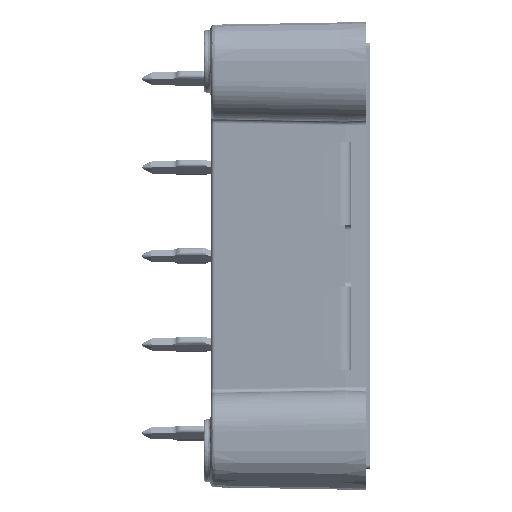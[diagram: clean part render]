
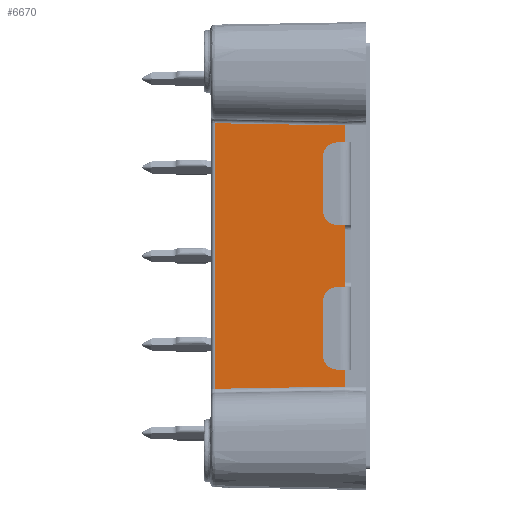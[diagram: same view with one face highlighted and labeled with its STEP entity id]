
A CAD part, left-side view. The second image highlights one B-rep face of the part: STEP entity #6670.
In plain terms, the highlighted planar face has unit normal (-1, 0.018, 0).
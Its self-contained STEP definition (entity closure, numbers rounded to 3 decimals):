
#2702 = CARTESIAN_POINT ( 'NONE',  ( 33.422, 4.162, 1.228 ) ) ;
#6057 = CARTESIAN_POINT ( 'NONE',  ( 33.257, -5.274, 2.319 ) ) ;
#6670 = ADVANCED_FACE ( 'NONE', ( #112217 ), #12534, .T. ) ;
#7149 = VECTOR ( 'NONE', #142956, 1000. ) ;
#8258 = CARTESIAN_POINT ( 'NONE',  ( 33.257, -5.274, 20.353 ) ) ;
#9477 = CARTESIAN_POINT ( 'NONE',  ( 33.257, -5.274, 2.728 ) ) ;
#12534 = PLANE ( 'NONE',  #113910 ) ;
#15076 = B_SPLINE_CURVE_WITH_KNOTS ( 'NONE', 3,
 ( #32436, #23650, #25060, #113857 ),
 .UNSPECIFIED., .F., .F.,
 ( 4, 4 ),
 ( 0., 1. ),
 .UNSPECIFIED. ) ;
#22561 = EDGE_CURVE ( 'NONE', #54122, #101447, #119812, .T. ) ;
#23650 = CARTESIAN_POINT ( 'NONE',  ( 33.257, -5.274, 19.536 ) ) ;
#23984 = VECTOR ( 'NONE', #137281, 1000. ) ;
#25060 = CARTESIAN_POINT ( 'NONE',  ( 33.257, -5.274, 19.945 ) ) ;
#25075 = CARTESIAN_POINT ( 'NONE',  ( 33.231, -6.799, 1.528 ) ) ;
#25650 = EDGE_LOOP ( 'NONE', ( #61124, #32652, #135223, #116649, #41883, #121163 ) ) ;
#32436 = CARTESIAN_POINT ( 'NONE',  ( 33.257, -5.274, 19.128 ) ) ;
#32652 = ORIENTED_EDGE ( 'NONE', *, *, #133468, .T. ) ;
#35061 = DIRECTION ( 'NONE',  ( -1., 0.017, 0. ) ) ;
#35231 = CARTESIAN_POINT ( 'NONE',  ( 33.422, 4.162, 1.337 ) ) ;
#35349 = EDGE_CURVE ( 'NONE', #111263, #45601, #57999, .T. ) ;
#39281 = CARTESIAN_POINT ( 'NONE',  ( 33.422, 4.162, 20.518 ) ) ;
#41699 = EDGE_CURVE ( 'NONE', #111263, #54122, #138372, .T. ) ;
#41883 = ORIENTED_EDGE ( 'NONE', *, *, #35349, .F. ) ;
#45601 = VERTEX_POINT ( 'NONE', #39281 ) ;
#45689 = VECTOR ( 'NONE', #96712, 1000. ) ;
#49623 = DIRECTION ( 'NONE',  ( -0.017, -1., 0.017 ) ) ;
#50438 = CARTESIAN_POINT ( 'NONE',  ( 33.257, -5.274, 1.502 ) ) ;
#53523 = LINE ( 'NONE', #132767, #7149 ) ;
#54122 = VERTEX_POINT ( 'NONE', #82393 ) ;
#56907 = DIRECTION ( 'NONE',  ( -0.017, -1., 0. ) ) ;
#57999 = LINE ( 'NONE', #2702, #23984 ) ;
#61124 = ORIENTED_EDGE ( 'NONE', *, *, #22561, .T. ) ;
#73042 = CARTESIAN_POINT ( 'NONE',  ( 33.257, -5.274, 2.728 ) ) ;
#74918 = CARTESIAN_POINT ( 'NONE',  ( 33.257, -5.274, 1.228 ) ) ;
#82393 = CARTESIAN_POINT ( 'NONE',  ( 33.257, -5.274, 1.502 ) ) ;
#91391 = VERTEX_POINT ( 'NONE', #8258 ) ;
#94088 = CARTESIAN_POINT ( 'NONE',  ( 33.257, -5.274, 1.91 ) ) ;
#95277 = LINE ( 'NONE', #74918, #45689 ) ;
#96712 = DIRECTION ( 'NONE',  ( 0., 0., 1. ) ) ;
#97421 = VERTEX_POINT ( 'NONE', #110181 ) ;
#101447 = VERTEX_POINT ( 'NONE', #9477 ) ;
#110181 = CARTESIAN_POINT ( 'NONE',  ( 33.257, -5.274, 19.128 ) ) ;
#111045 = EDGE_CURVE ( 'NONE', #91391, #45601, #53523, .T. ) ;
#111263 = VERTEX_POINT ( 'NONE', #35231 ) ;
#112217 = FACE_OUTER_BOUND ( 'NONE', #25650, .T. ) ;
#112984 = VECTOR ( 'NONE', #49623, 1000. ) ;
#113857 = CARTESIAN_POINT ( 'NONE',  ( 33.257, -5.274, 20.353 ) ) ;
#113910 = AXIS2_PLACEMENT_3D ( 'NONE', #124516, #35061, #56907 ) ;
#116649 = ORIENTED_EDGE ( 'NONE', *, *, #111045, .T. ) ;
#119812 = B_SPLINE_CURVE_WITH_KNOTS ( 'NONE', 3,
 ( #50438, #94088, #6057, #73042 ),
 .UNSPECIFIED., .F., .F.,
 ( 4, 4 ),
 ( 0., 1. ),
 .UNSPECIFIED. ) ;
#121163 = ORIENTED_EDGE ( 'NONE', *, *, #41699, .T. ) ;
#124516 = CARTESIAN_POINT ( 'NONE',  ( 33.232, -6.744, 1.228 ) ) ;
#132767 = CARTESIAN_POINT ( 'NONE',  ( 33.226, -7.077, 20.322 ) ) ;
#133468 = EDGE_CURVE ( 'NONE', #101447, #97421, #95277, .T. ) ;
#135223 = ORIENTED_EDGE ( 'NONE', *, *, #140905, .T. ) ;
#137281 = DIRECTION ( 'NONE',  ( 0., 0., 1. ) ) ;
#138372 = LINE ( 'NONE', #25075, #112984 ) ;
#140905 = EDGE_CURVE ( 'NONE', #97421, #91391, #15076, .T. ) ;
#142956 = DIRECTION ( 'NONE',  ( 0.017, 1., 0.017 ) ) ;
